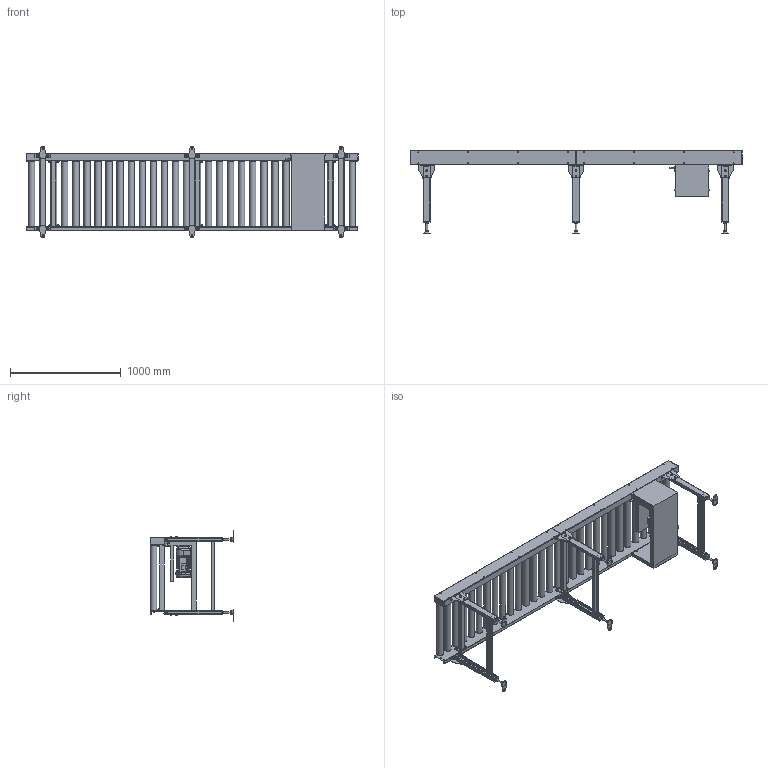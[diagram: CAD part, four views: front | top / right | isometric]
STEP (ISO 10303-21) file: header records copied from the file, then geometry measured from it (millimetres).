
FILE_DESCRIPTION( (''), '2;1');
FILE_NAME ('WEB-FCC2H-57-3-040-630-100-300-L-20S.stp','2026-03-19T10:10:13',(''),(''),'spGate 20.6.2 (****-****-****-****)','','');
FILE_SCHEMA (('AUTOMOTIVE_DESIGN'));
Length unit declared in the file: millimetre
Products named in the file (113): WEB-FCC2H-57-3-040-630-100-300-L-20S; TEMP_X_T-prt0; TEMP_X_T-prt1; TEMP_X_T-prt2; TEMP_X_T-prt3; TEMP_X_T-prt4; TEMP_X_T-prt5; TEMP_X_T-prt6; TEMP_X_T-prt7; TEMP_X_T-prt8; TEMP_X_T-prt9; TEMP_X_T-prt10; TEMP_X_T-prt11; TEMP_X_T-prt12; TEMP_X_T-prt13; TEMP_X_T-prt14; TEMP_X_T-prt15; TEMP_X_T-prt16; TEMP_X_T-prt17; TEMP_X_T-prt18; TEMP_X_T-prt19; TEMP_X_T-prt20; TEMP_X_T-prt21; TEMP_X_T-prt22; TEMP_X_T-prt23; TEMP_X_T-prt24; TEMP_X_T-prt25; TEMP_X_T-prt26; TEMP_X_T-prt27; TEMP_X_T-prt28; TEMP_X_T-prt29; TEMP_X_T-prt30; TEMP_X_T-prt31; TEMP_X_T-prt32; TEMP_X_T-prt33; TEMP_X_T-prt34; TEMP_X_T-prt35; TEMP_X_T-prt36; TEMP_X_T-prt37; TEMP_X_T-prt38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
Assembly tree (112 placements, depth 2):
  WEB-FCC2H-57-3-040-630-100-300-L-20S
    TEMP_X_T-prt0
    TEMP_X_T-prt1
    TEMP_X_T-prt2
    TEMP_X_T-prt3
    TEMP_X_T-prt4
    TEMP_X_T-prt5
    TEMP_X_T-prt6
    TEMP_X_T-prt7
    TEMP_X_T-prt8
    TEMP_X_T-prt9
    TEMP_X_T-prt10
    TEMP_X_T-prt11
    TEMP_X_T-prt12
    TEMP_X_T-prt13
    TEMP_X_T-prt14
    TEMP_X_T-prt15
    TEMP_X_T-prt16
    TEMP_X_T-prt17
    TEMP_X_T-prt18
    TEMP_X_T-prt19
    TEMP_X_T-prt20
    TEMP_X_T-prt21
    TEMP_X_T-prt22
    TEMP_X_T-prt23
    TEMP_X_T-prt24
    TEMP_X_T-prt25
    TEMP_X_T-prt26
    TEMP_X_T-prt27
    TEMP_X_T-prt28
    TEMP_X_T-prt29
    TEMP_X_T-prt30
    TEMP_X_T-prt31
    TEMP_X_T-prt32
    TEMP_X_T-prt33
    TEMP_X_T-prt34
    TEMP_X_T-prt35
    TEMP_X_T-prt36
    TEMP_X_T-prt37
    TEMP_X_T-prt38
    TEMP_X_T-prt39
    TEMP_X_T-prt40
    TEMP_X_T-prt41
    TEMP_X_T-prt42
    TEMP_X_T-prt43
    TEMP_X_T-prt44
    TEMP_X_T-prt45
    TEMP_X_T-prt46
    TEMP_X_T-prt47
    TEMP_X_T-prt48
    TEMP_X_T-prt49
    TEMP_X_T-prt50
    TEMP_X_T-prt51
    TEMP_X_T-prt52
    TEMP_X_T-prt53
    TEMP_X_T-prt54
    TEMP_X_T-prt55
    TEMP_X_T-prt56
    TEMP_X_T-prt57
    TEMP_X_T-prt58
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Bounding box: 3002.4 x 750 x 824 mm (x, y, z)
Volume: 95329099.7 mm3; surface area: 10131183.4 mm2
Topology: 112 solids, 112 shells, 3512 faces, 8926 edges, 5913 vertices
Faces by surface type: plane 2574, cylinder 831, bspline 83, sphere 24
Full cylindrical faces by diameter (mm): 4 x8, 5 x24, 6 x1, 8 x12, 8.5 x15, 9 x12, 9.2 x4, 9.4 x24, 10 x58, 10.5 x14, 11 x28, 12 x38, 13 x14, 15 x1, 15.4 x6, 16 x12, 17 x42, 18 x6, 21 x14, 24 x1, 25 x4, 28 x1, 30 x2, 47 x30, 56 x1, 57 x30, 113.2 x1, 125 x1
Entity records: 184130 total; most frequent: CARTESIAN_POINT 23094, DIRECTION 18133, ORIENTED_EDGE 17850, COLOUR_RGB 12549, PRESENTATION_STYLE_ASSIGNMENT 12549, STYLED_ITEM 12549, EDGE_CURVE 8925, DRAUGHTING_PRE_DEFINED_CURVE_FONT 8925
